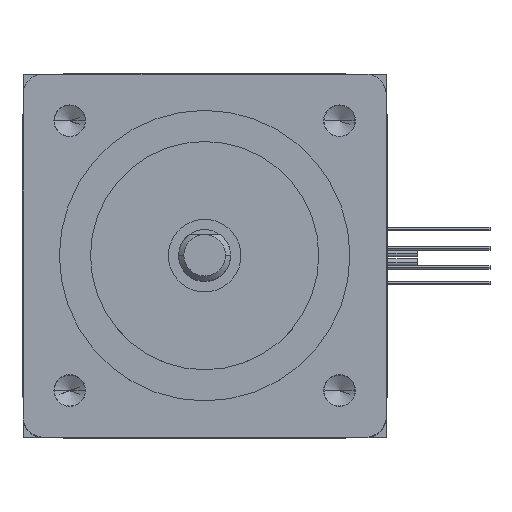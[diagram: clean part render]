
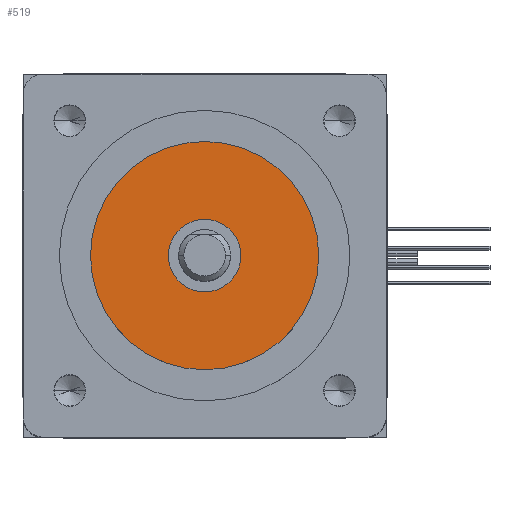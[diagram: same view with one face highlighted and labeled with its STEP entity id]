
A CAD part, top view. The second image highlights one B-rep face of the part: STEP entity #519.
In plain terms, the highlighted planar face has unit normal (0, 0, 1).
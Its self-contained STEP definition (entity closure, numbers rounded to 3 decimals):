
#62 = CARTESIAN_POINT ( 'NONE',  ( 0., 0., 2. ) ) ;
#380 = EDGE_CURVE ( 'NONE', #6027, #9078, #7836, .T. ) ;
#519 = ADVANCED_FACE ( 'NONE', ( #9408, #7680 ), #5478, .T. ) ;
#628 = CIRCLE ( 'NONE', #6979, 3.5 ) ;
#1075 = CARTESIAN_POINT ( 'NONE',  ( -11., 0., 2. ) ) ;
#1781 = CARTESIAN_POINT ( 'NONE',  ( 3.5, 0., 2. ) ) ;
#1999 = VERTEX_POINT ( 'NONE', #1781 ) ;
#2136 = DIRECTION ( 'NONE',  ( -1., 0., 0. ) ) ;
#2305 = DIRECTION ( 'NONE',  ( 0., 0., -1. ) ) ;
#2361 = AXIS2_PLACEMENT_3D ( 'NONE', #6579, #3568, #12462 ) ;
#3233 = DIRECTION ( 'NONE',  ( 0., 0., -1. ) ) ;
#3568 = DIRECTION ( 'NONE',  ( 0., 0., 1. ) ) ;
#3707 = AXIS2_PLACEMENT_3D ( 'NONE', #7722, #12614, #8653 ) ;
#3723 = ORIENTED_EDGE ( 'NONE', *, *, #12936, .T. ) ;
#4244 = CARTESIAN_POINT ( 'NONE',  ( 0., 0., 2. ) ) ;
#5394 = DIRECTION ( 'NONE',  ( 0., 0., 1. ) ) ;
#5478 = PLANE ( 'NONE',  #2361 ) ;
#6016 = EDGE_CURVE ( 'NONE', #7656, #1999, #628, .T. ) ;
#6027 = VERTEX_POINT ( 'NONE', #1075 ) ;
#6579 = CARTESIAN_POINT ( 'NONE',  ( 0., 0., 2. ) ) ;
#6610 = AXIS2_PLACEMENT_3D ( 'NONE', #4244, #2305, #12246 ) ;
#6979 = AXIS2_PLACEMENT_3D ( 'NONE', #62, #3233, #2136 ) ;
#7070 = AXIS2_PLACEMENT_3D ( 'NONE', #10203, #5394, #7283 ) ;
#7283 = DIRECTION ( 'NONE',  ( -1., 0., 0. ) ) ;
#7656 = VERTEX_POINT ( 'NONE', #9402 ) ;
#7680 = FACE_OUTER_BOUND ( 'NONE', #10630, .T. ) ;
#7722 = CARTESIAN_POINT ( 'NONE',  ( 0., 0., 2. ) ) ;
#7836 = CIRCLE ( 'NONE', #7070, 11. ) ;
#8242 = CIRCLE ( 'NONE', #3707, 11. ) ;
#8653 = DIRECTION ( 'NONE',  ( -1., 0., 0. ) ) ;
#9033 = EDGE_CURVE ( 'NONE', #9078, #6027, #8242, .T. ) ;
#9078 = VERTEX_POINT ( 'NONE', #10526 ) ;
#9278 = EDGE_LOOP ( 'NONE', ( #11490, #3723 ) ) ;
#9402 = CARTESIAN_POINT ( 'NONE',  ( -3.5, 0., 2. ) ) ;
#9408 = FACE_BOUND ( 'NONE', #9278, .T. ) ;
#9451 = ORIENTED_EDGE ( 'NONE', *, *, #380, .T. ) ;
#10203 = CARTESIAN_POINT ( 'NONE',  ( 0., 0., 2. ) ) ;
#10526 = CARTESIAN_POINT ( 'NONE',  ( 11., 0., 2. ) ) ;
#10630 = EDGE_LOOP ( 'NONE', ( #12136, #9451 ) ) ;
#10912 = CIRCLE ( 'NONE', #6610, 3.5 ) ;
#11490 = ORIENTED_EDGE ( 'NONE', *, *, #6016, .T. ) ;
#12136 = ORIENTED_EDGE ( 'NONE', *, *, #9033, .T. ) ;
#12246 = DIRECTION ( 'NONE',  ( -1., 0., 0. ) ) ;
#12462 = DIRECTION ( 'NONE',  ( 1., 0., 0. ) ) ;
#12614 = DIRECTION ( 'NONE',  ( 0., 0., 1. ) ) ;
#12936 = EDGE_CURVE ( 'NONE', #1999, #7656, #10912, .T. ) ;
